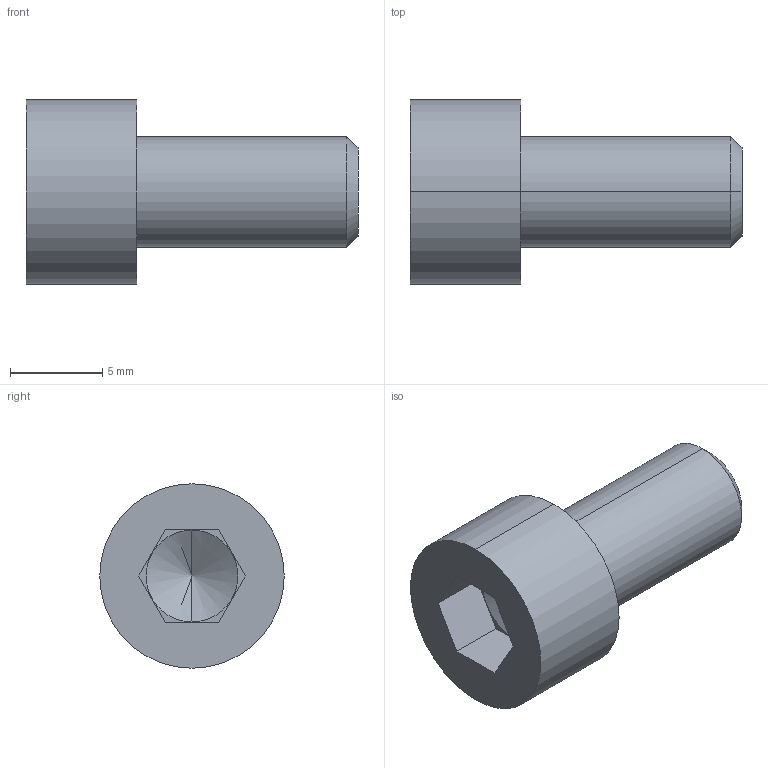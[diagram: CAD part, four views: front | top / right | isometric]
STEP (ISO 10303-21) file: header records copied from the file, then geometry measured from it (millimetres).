
FILE_DESCRIPTION (( 'STEP AP203' ), '1' );
FILE_NAME ('M6x12_DIN912.STEP', '2016-05-14T08:58:27', ( '' ), ( '' ), 'SwSTEP 2.0', 'SolidWorks 2014', '' );
FILE_SCHEMA (( 'CONFIG_CONTROL_DESIGN' ));
Length unit declared in the file: millimetre
Products named in the file (1): M6x12_DIN912
Bounding box: 18 x 10 x 10 mm (x, y, z)
Volume: 732.9 mm3; surface area: 619.5 mm2
Topology: 1 solids, 1 shells, 18 faces, 40 edges, 25 vertices
Faces by surface type: plane 10, cylinder 4, cone 4
Entity records: 563 total; most frequent: DIRECTION 88, CARTESIAN_POINT 82, ORIENTED_EDGE 76, EDGE_CURVE 38, AXIS2_PLACEMENT_3D 31, LINE 26, VECTOR 26, VERTEX_POINT 25
